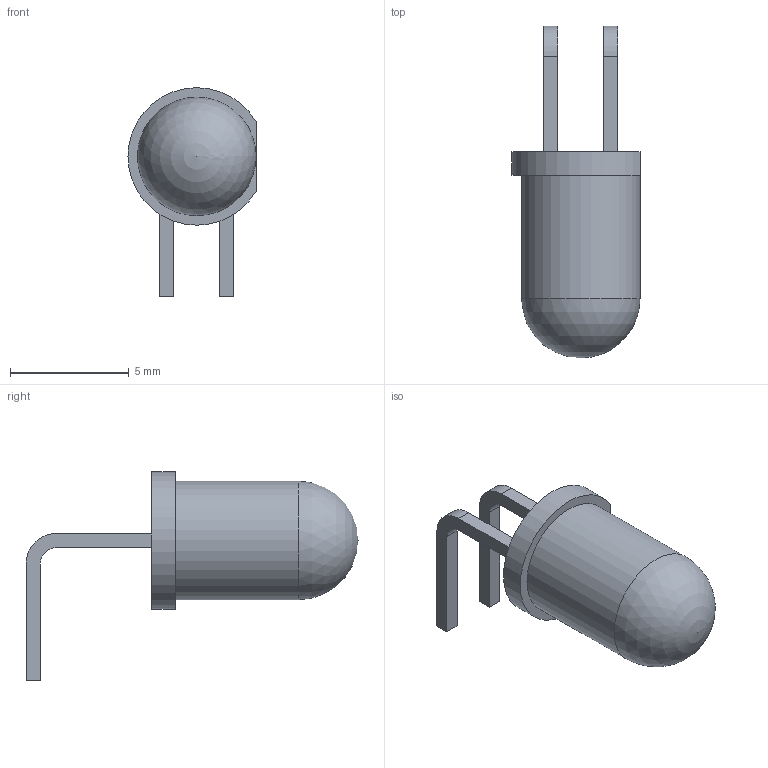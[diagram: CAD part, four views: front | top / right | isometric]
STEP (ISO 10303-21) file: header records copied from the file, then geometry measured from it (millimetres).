
FILE_DESCRIPTION(('FreeCAD Model'),'2;1');
FILE_NAME('D:/Altium Board/Parts/CAD Models/LED/5mm/LED 5mm Blue Right Angle 5mm Pin.step','2020-07-10T11:08:11',('Author'),(''), 'Open CASCADE STEP processor 7.3','FreeCAD','Unknown');
FILE_SCHEMA(('AUTOMOTIVE_DESIGN { 1 0 10303 214 1 1 1 1 }'));
Length unit declared in the file: millimetre
Products named in the file (1): LED_5mm_Blue_Right_Angle_5mm_Pin
Bounding box: 5.4 x 14 x 8.8 mm (x, y, z)
Volume: 163 mm3; surface area: 224.4 mm2
Topology: 1 solids, 1 shells, 37 faces, 86 edges, 53 vertices
Faces by surface type: plane 19, cylinder 16, torus 1, sphere 1
Full cylindrical faces by diameter (mm): 5 x1
Entity records: 2649 total; most frequent: CARTESIAN_POINT 632, DIRECTION 330, LINE 194, VECTOR 194, ORIENTED_EDGE 170, PCURVE 170, DEFINITIONAL_REPRESENTATION 170, EDGE_CURVE 85
